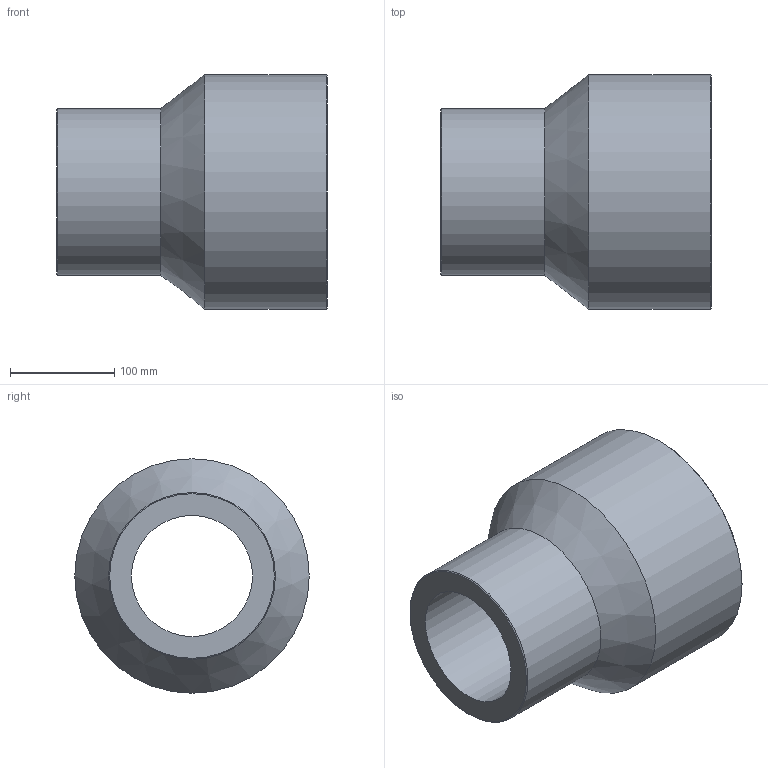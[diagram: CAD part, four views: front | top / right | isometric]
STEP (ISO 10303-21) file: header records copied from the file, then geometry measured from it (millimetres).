
FILE_DESCRIPTION(/* description */ ('Unknown'),/* implementation_level */ '2;1');
FILE_NAME(/* name */ 'RP225160H',/* time_stamp */ '2021-09-16T15:11:18+02:00',/* author */ ('Unknown'),/* organization */ ('Unknown'),/* preprocessor_version */ 'ST-DEVELOPER v16.7',/* originating_system */ 'Solid Edge',/* authorisation */ 'Unknown');
FILE_SCHEMA (('AUTOMOTIVE_DESIGN {1 0 10303 214 3 1 1}'));
Length unit declared in the file: millimetre
Products named in the file (1): RP225160H
Bounding box: 260 x 225 x 225 mm (x, y, z)
Volume: 3841570.7 mm3; surface area: 310657.5 mm2
Topology: 1 solids, 1 shells, 10 faces, 19 edges, 11 vertices
Faces by surface type: cylinder 4, cone 4, plane 2
Full cylindrical faces by diameter (mm): 116.2 x1, 160 x1, 163.4 x1, 225 x1
Entity records: 238 total; most frequent: DIRECTION 42, CARTESIAN_POINT 31, AXIS2_PLACEMENT_3D 21, ORIENTED_EDGE 20, EDGE_LOOP 20, FACE_BOUND 20, EDGE_CURVE 10, VERTEX_POINT 10
